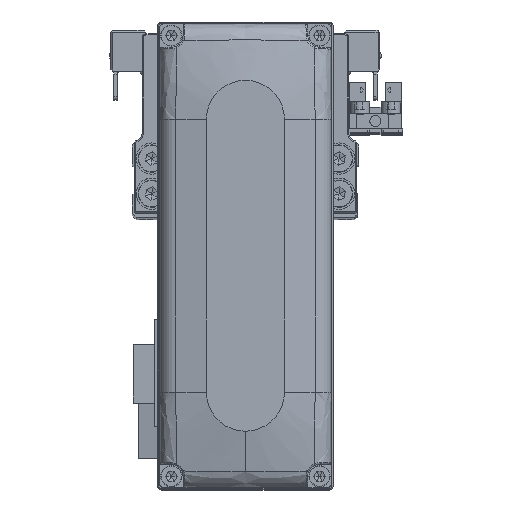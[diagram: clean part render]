
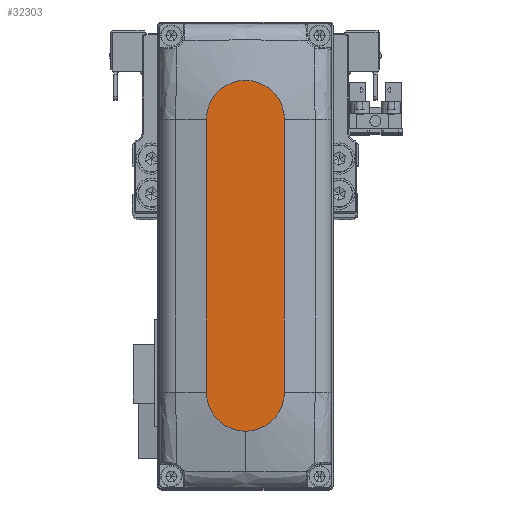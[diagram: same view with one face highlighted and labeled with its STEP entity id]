
A CAD part, top view. The second image highlights one B-rep face of the part: STEP entity #32303.
In plain terms, the highlighted planar face has unit normal (0, 0, 1).
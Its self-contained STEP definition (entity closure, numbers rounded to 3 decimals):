
#1032 = LINE ( 'NONE', #12665, #29404 ) ;
#2420 = CARTESIAN_POINT ( 'NONE',  ( 35., 10., 28. ) ) ;
#4419 = ORIENTED_EDGE ( 'NONE', *, *, #34308, .T. ) ;
#5154 = CARTESIAN_POINT ( 'NONE',  ( 35., -10., 28. ) ) ;
#5155 = DIRECTION ( 'NONE',  ( 1., 0., 0. ) ) ;
#5270 = CARTESIAN_POINT ( 'NONE',  ( 0., 0., 28. ) ) ;
#5277 = DIRECTION ( 'NONE',  ( 1., 0., 0. ) ) ;
#6066 = CIRCLE ( 'NONE', #10941, 10. ) ;
#9118 = CARTESIAN_POINT ( 'NONE',  ( 45., 0., 28. ) ) ;
#10305 = CARTESIAN_POINT ( 'NONE',  ( -35., 0., 28. ) ) ;
#10799 = AXIS2_PLACEMENT_3D ( 'NONE', #19656, #31253, #5155 ) ;
#10908 = LINE ( 'NONE', #22555, #28421 ) ;
#10941 = AXIS2_PLACEMENT_3D ( 'NONE', #10305, #21952, #33556 ) ;
#11336 = EDGE_CURVE ( 'NONE', #18299, #18526, #6066, .T. ) ;
#11890 = CARTESIAN_POINT ( 'NONE',  ( -35., -10., 28. ) ) ;
#12513 = AXIS2_PLACEMENT_3D ( 'NONE', #19771, #31373, #5277 ) ;
#12665 = CARTESIAN_POINT ( 'NONE',  ( -35., 10., 28. ) ) ;
#16902 = DIRECTION ( 'NONE',  ( 0., 0., 1. ) ) ;
#17681 = VERTEX_POINT ( 'NONE', #9118 ) ;
#18299 = VERTEX_POINT ( 'NONE', #33661 ) ;
#18526 = VERTEX_POINT ( 'NONE', #11890 ) ;
#18676 = AXIS2_PLACEMENT_3D ( 'NONE', #5270, #16902, #28513 ) ;
#18710 = ORIENTED_EDGE ( 'NONE', *, *, #34695, .T. ) ;
#19656 = CARTESIAN_POINT ( 'NONE',  ( 35., 0., 28. ) ) ;
#19765 = FACE_OUTER_BOUND ( 'NONE', #33650, .T. ) ;
#19771 = CARTESIAN_POINT ( 'NONE',  ( 35., 0., 28. ) ) ;
#19844 = ORIENTED_EDGE ( 'NONE', *, *, #22077, .T. ) ;
#21952 = DIRECTION ( 'NONE',  ( 0., 0., 1. ) ) ;
#22077 = EDGE_CURVE ( 'NONE', #32316, #18299, #1032, .T. ) ;
#22555 = CARTESIAN_POINT ( 'NONE',  ( -35., -10., 28. ) ) ;
#24294 = DIRECTION ( 'NONE',  ( -1., 0., 0. ) ) ;
#26076 = EDGE_CURVE ( 'NONE', #17681, #32316, #28942, .T. ) ;
#26907 = VERTEX_POINT ( 'NONE', #5154 ) ;
#27239 = CIRCLE ( 'NONE', #10799, 10. ) ;
#28421 = VECTOR ( 'NONE', #34162, 1000. ) ;
#28513 = DIRECTION ( 'NONE',  ( 1., 0., 0. ) ) ;
#28942 = CIRCLE ( 'NONE', #12513, 10. ) ;
#29404 = VECTOR ( 'NONE', #24294, 1000. ) ;
#30852 = ORIENTED_EDGE ( 'NONE', *, *, #26076, .T. ) ;
#31253 = DIRECTION ( 'NONE',  ( 0., 0., 1. ) ) ;
#31367 = PLANE ( 'NONE',  #18676 ) ;
#31373 = DIRECTION ( 'NONE',  ( 0., 0., 1. ) ) ;
#32303 = ADVANCED_FACE ( 'NONE', ( #19765 ), #31367, .T. ) ;
#32316 = VERTEX_POINT ( 'NONE', #2420 ) ;
#33556 = DIRECTION ( 'NONE',  ( 1., 0., 0. ) ) ;
#33650 = EDGE_LOOP ( 'NONE', ( #19844, #34783, #4419, #18710, #30852 ) ) ;
#33661 = CARTESIAN_POINT ( 'NONE',  ( -35., 10., 28. ) ) ;
#34162 = DIRECTION ( 'NONE',  ( 1., 0., 0. ) ) ;
#34308 = EDGE_CURVE ( 'NONE', #18526, #26907, #10908, .T. ) ;
#34695 = EDGE_CURVE ( 'NONE', #26907, #17681, #27239, .T. ) ;
#34783 = ORIENTED_EDGE ( 'NONE', *, *, #11336, .T. ) ;
